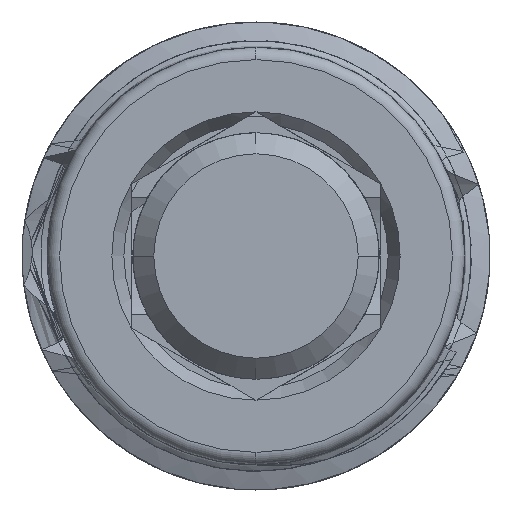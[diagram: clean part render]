
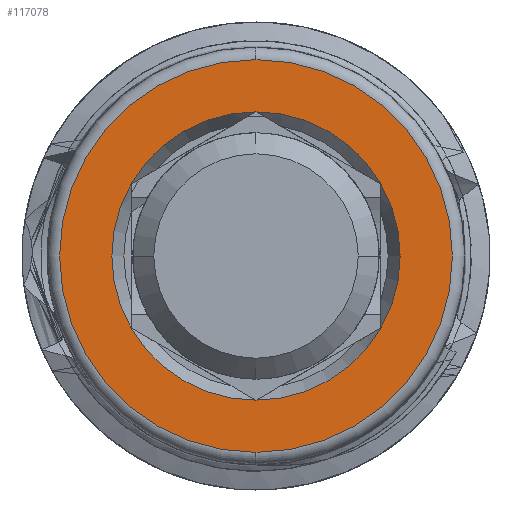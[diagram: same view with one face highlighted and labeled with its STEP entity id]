
A CAD part, front view. The second image highlights one B-rep face of the part: STEP entity #117078.
In plain terms, the highlighted planar face has unit normal (0, -1, 0) as drawn and (0, 1, 0) by its records, which use the part's own axes.
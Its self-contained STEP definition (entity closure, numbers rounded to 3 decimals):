
#836 = CARTESIAN_POINT ( 'NONE',  ( 0., 27.5, 0. ) ) ;
#4771 = CARTESIAN_POINT ( 'NONE',  ( 0., 27.5, 0. ) ) ;
#6009 = FACE_BOUND ( 'NONE', #54344, .T. ) ;
#11252 = ORIENTED_EDGE ( 'NONE', *, *, #172470, .T. ) ;
#11654 = EDGE_CURVE ( 'NONE', #150354, #150157, #141715, .T. ) ;
#12542 = CARTESIAN_POINT ( 'NONE',  ( 0., 27.5, 0. ) ) ;
#12735 = AXIS2_PLACEMENT_3D ( 'NONE', #67298, #35632, #176662 ) ;
#15286 = DIRECTION ( 'NONE',  ( 0., 1., 0. ) ) ;
#17158 = DIRECTION ( 'NONE',  ( 0., 1., 0. ) ) ;
#18703 = ORIENTED_EDGE ( 'NONE', *, *, #67705, .F. ) ;
#22085 = CARTESIAN_POINT ( 'NONE',  ( 0., 27.5, -4.7 ) ) ;
#23505 = ORIENTED_EDGE ( 'NONE', *, *, #40272, .F. ) ;
#28744 = CARTESIAN_POINT ( 'NONE',  ( 0., 27.5, 3.45 ) ) ;
#28882 = DIRECTION ( 'NONE',  ( 0., 1., 0. ) ) ;
#28931 = CARTESIAN_POINT ( 'NONE',  ( -2.988, 27.5, -1.725 ) ) ;
#35237 = ORIENTED_EDGE ( 'NONE', *, *, #48123, .F. ) ;
#35632 = DIRECTION ( 'NONE',  ( 0., 1., 0. ) ) ;
#40272 = EDGE_CURVE ( 'NONE', #77492, #181563, #79967, .T. ) ;
#42093 = EDGE_CURVE ( 'NONE', #168819, #178366, #53896, .T. ) ;
#44849 = AXIS2_PLACEMENT_3D ( 'NONE', #4771, #15286, #129423 ) ;
#47824 = DIRECTION ( 'NONE',  ( 0., 0., 1. ) ) ;
#48035 = DIRECTION ( 'NONE',  ( 0., 0., 1. ) ) ;
#48123 = EDGE_CURVE ( 'NONE', #178366, #77492, #155009, .T. ) ;
#48950 = CARTESIAN_POINT ( 'NONE',  ( 0., 27.5, 0. ) ) ;
#52849 = EDGE_LOOP ( 'NONE', ( #65146, #11252 ) ) ;
#53896 = CIRCLE ( 'NONE', #63783, 3.45 ) ;
#54344 = EDGE_LOOP ( 'NONE', ( #18703, #23505, #35237, #82312, #140063, #104845 ) ) ;
#57694 = AXIS2_PLACEMENT_3D ( 'NONE', #48950, #94944, #81609 ) ;
#59987 = DIRECTION ( 'NONE',  ( 0., 0., 1. ) ) ;
#63783 = AXIS2_PLACEMENT_3D ( 'NONE', #185691, #154004, #59987 ) ;
#65146 = ORIENTED_EDGE ( 'NONE', *, *, #11654, .T. ) ;
#65158 = AXIS2_PLACEMENT_3D ( 'NONE', #152273, #122625, #151282 ) ;
#67298 = CARTESIAN_POINT ( 'NONE',  ( 0., 27.5, 0. ) ) ;
#67705 = EDGE_CURVE ( 'NONE', #181563, #78102, #194880, .T. ) ;
#74982 = EDGE_CURVE ( 'NONE', #78102, #103365, #132983, .T. ) ;
#77492 = VERTEX_POINT ( 'NONE', #129176 ) ;
#78102 = VERTEX_POINT ( 'NONE', #129968 ) ;
#78708 = CIRCLE ( 'NONE', #143927, 4.7 ) ;
#79685 = CARTESIAN_POINT ( 'NONE',  ( 0., 27.5, 0. ) ) ;
#79967 = CIRCLE ( 'NONE', #174657, 3.45 ) ;
#81609 = DIRECTION ( 'NONE',  ( 0., 0., 1. ) ) ;
#82312 = ORIENTED_EDGE ( 'NONE', *, *, #42093, .F. ) ;
#85667 = FACE_OUTER_BOUND ( 'NONE', #52849, .T. ) ;
#94944 = DIRECTION ( 'NONE',  ( 0., 1., 0. ) ) ;
#98736 = CARTESIAN_POINT ( 'NONE',  ( 0., 27.5, 4.7 ) ) ;
#103365 = VERTEX_POINT ( 'NONE', #128516 ) ;
#104845 = ORIENTED_EDGE ( 'NONE', *, *, #74982, .F. ) ;
#113702 = CARTESIAN_POINT ( 'NONE',  ( 0., 27.5, 0. ) ) ;
#117078 = ADVANCED_FACE ( 'NONE', ( #6009, #85667 ), #132690, .T. ) ;
#122625 = DIRECTION ( 'NONE',  ( 0., 1., 0. ) ) ;
#128516 = CARTESIAN_POINT ( 'NONE',  ( 2.988, 27.5, -1.725 ) ) ;
#129176 = CARTESIAN_POINT ( 'NONE',  ( -2.988, 27.5, 1.725 ) ) ;
#129423 = DIRECTION ( 'NONE',  ( 0., 0., 1. ) ) ;
#129968 = CARTESIAN_POINT ( 'NONE',  ( 2.988, 27.5, 1.725 ) ) ;
#132690 = PLANE ( 'NONE',  #12735 ) ;
#132983 = CIRCLE ( 'NONE', #44849, 3.45 ) ;
#140063 = ORIENTED_EDGE ( 'NONE', *, *, #153243, .F. ) ;
#141715 = CIRCLE ( 'NONE', #193986, 4.7 ) ;
#142037 = DIRECTION ( 'NONE',  ( 0., 1., 0. ) ) ;
#143927 = AXIS2_PLACEMENT_3D ( 'NONE', #113702, #176046, #161711 ) ;
#150157 = VERTEX_POINT ( 'NONE', #22085 ) ;
#150354 = VERTEX_POINT ( 'NONE', #98736 ) ;
#151282 = DIRECTION ( 'NONE',  ( 0., 0., 1. ) ) ;
#152273 = CARTESIAN_POINT ( 'NONE',  ( 0., 27.5, 0. ) ) ;
#152533 = DIRECTION ( 'NONE',  ( 0., 0., 1. ) ) ;
#153243 = EDGE_CURVE ( 'NONE', #103365, #168819, #166429, .T. ) ;
#154004 = DIRECTION ( 'NONE',  ( 0., 1., 0. ) ) ;
#155009 = CIRCLE ( 'NONE', #197487, 3.45 ) ;
#161711 = DIRECTION ( 'NONE',  ( 0., 0., 1. ) ) ;
#166429 = CIRCLE ( 'NONE', #65158, 3.45 ) ;
#168819 = VERTEX_POINT ( 'NONE', #182643 ) ;
#172470 = EDGE_CURVE ( 'NONE', #150157, #150354, #78708, .T. ) ;
#174657 = AXIS2_PLACEMENT_3D ( 'NONE', #12542, #28882, #152533 ) ;
#176046 = DIRECTION ( 'NONE',  ( 0., 1., 0. ) ) ;
#176662 = DIRECTION ( 'NONE',  ( 0., 0., 1. ) ) ;
#178366 = VERTEX_POINT ( 'NONE', #28931 ) ;
#181563 = VERTEX_POINT ( 'NONE', #28744 ) ;
#182643 = CARTESIAN_POINT ( 'NONE',  ( 0., 27.5, -3.45 ) ) ;
#185691 = CARTESIAN_POINT ( 'NONE',  ( 0., 27.5, 0. ) ) ;
#193986 = AXIS2_PLACEMENT_3D ( 'NONE', #79685, #142037, #48035 ) ;
#194880 = CIRCLE ( 'NONE', #57694, 3.45 ) ;
#197487 = AXIS2_PLACEMENT_3D ( 'NONE', #836, #17158, #47824 ) ;
